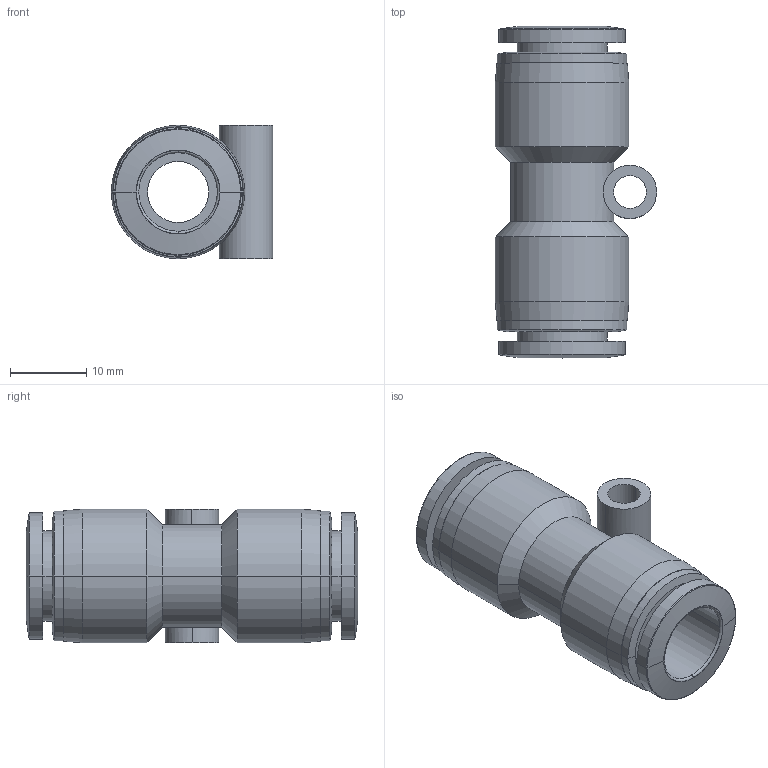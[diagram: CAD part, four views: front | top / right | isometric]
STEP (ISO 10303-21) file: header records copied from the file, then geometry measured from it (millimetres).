
FILE_DESCRIPTION (( 'STEP AP203' ), '1' );
FILE_NAME ('FH10-00.STEP', '2020-05-13T10:57:55', ( '' ), ( '' ), 'SwSTEP 2.0', 'SolidWorks 2019', '' );
FILE_SCHEMA (( 'CONFIG_CONTROL_DESIGN' ));
Length unit declared in the file: millimetre
Products named in the file (1): FH10-00
Bounding box: 21.15 x 43.5 x 17.5 mm (x, y, z)
Volume: 5806.2 mm3; surface area: 4975.7 mm2
Topology: 1 solids, 1 shells, 64 faces, 146 edges, 92 vertices
Faces by surface type: cylinder 28, cone 16, plane 12, torus 8
Entity records: 2069 total; most frequent: CARTESIAN_POINT 457, DIRECTION 368, ORIENTED_EDGE 292, AXIS2_PLACEMENT_3D 161, EDGE_CURVE 146, CIRCLE 96, VERTEX_POINT 92, EDGE_LOOP 76
